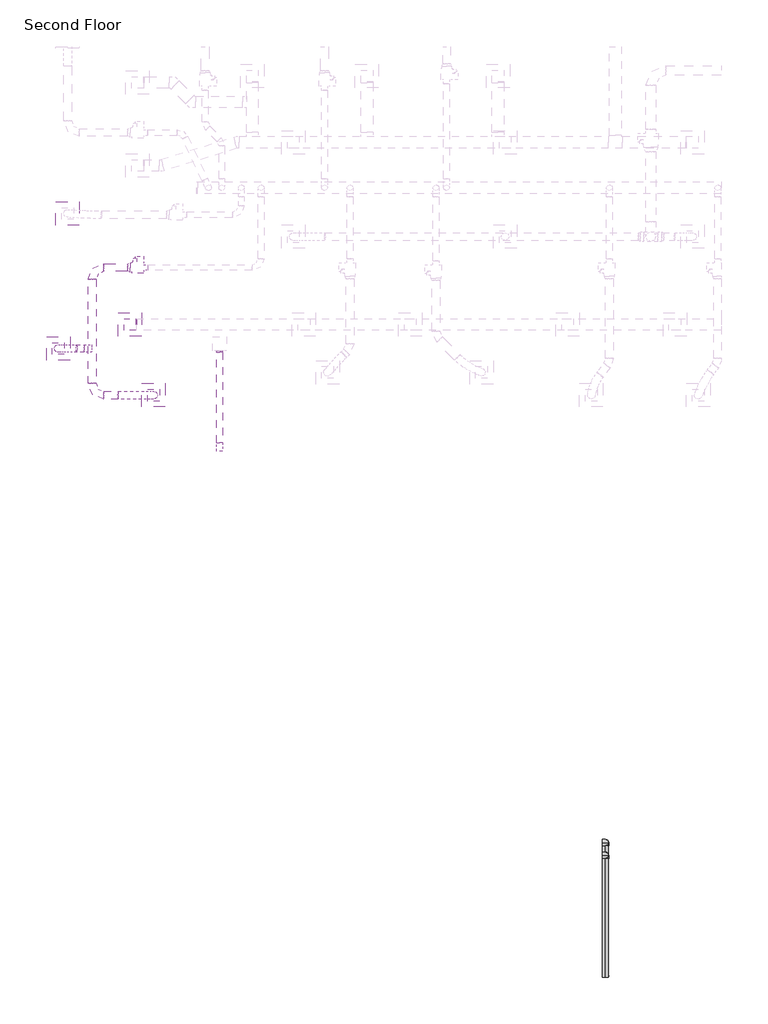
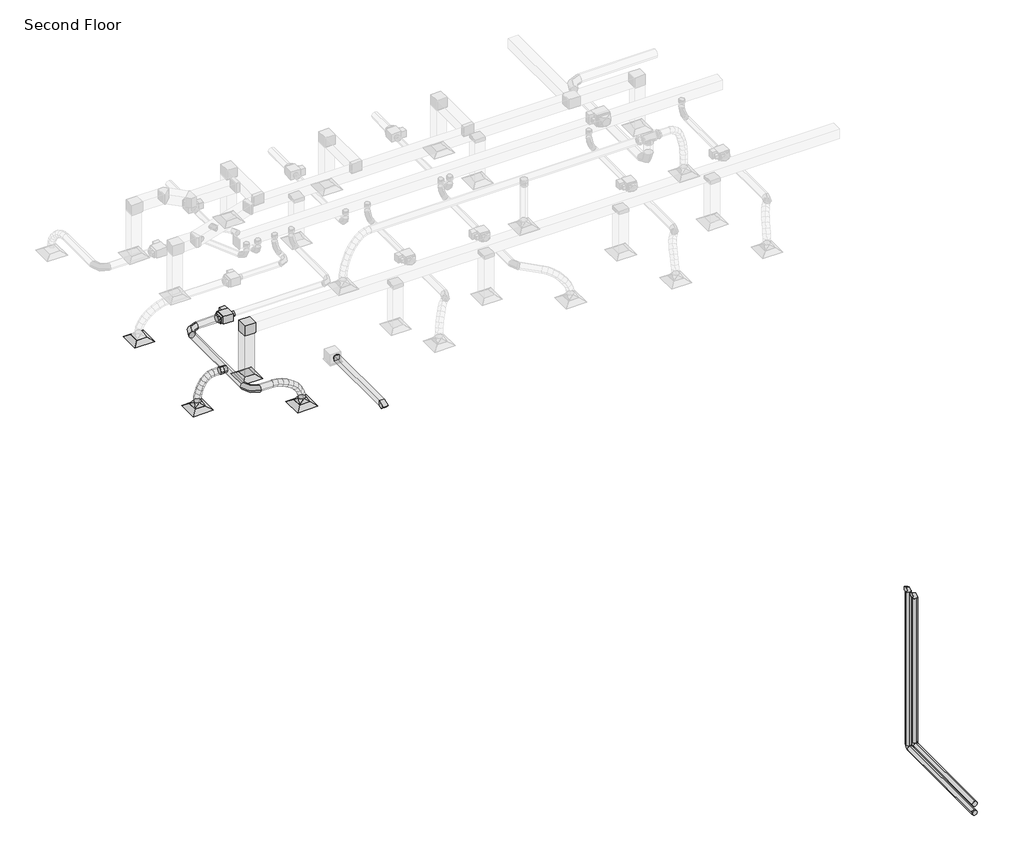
# One storey, part 1 of 44: 9 duct fittings, 8 duct segments, 5 pipe fittings, 4 air terminals, 4 pipe segments, 1 proxy.
"""IFC4 building model written with IfcOpenShell, lengths in millimetres."""

from ifc_helpers import new_model, si_unit, point, frame, frame_2d, origin, place, context, project, spatial, polyline, circle_curve, ellipse_curve, trimmed, segment, composite_curve, outline, extrude, transform, mapped, element, save
from ifc_brep_helpers import plane_surface, cylinder_surface, advanced_brep
from components import m_exhaust_grill_er_600_x_600_face_300_x_300_connection_ff221211, m_vav_unit_single_duct_150_mm_ffdab17b, m_rectangular_elbow_mitered_standard_8eee5933, m_rectangular_elbow_radius_1_5_w_13fbe4c8, m_rectangular_to_round_transition_angle_45_degree_2860c485, m_rectangular_to_round_transition_angle_45_degree_60daae35, m_rectangular_to_round_transition_angle_45_degree_1b7ae117, m_round_elbow_1_5_d_b7bc3624, m_round_takeoff_standard_c62ca294, m_elbow_generic_standard_1652de39, m_transition_generic_standard_cf1901ec

model = new_model("IFC4")

# Units and contexts
model_context = context("Model", 3, world=origin())
ifc_project = project(units=[si_unit("LENGTHUNIT", "METRE", prefix="MILLI")], contexts=[model_context])

# Site, building, storey
site = spatial("IfcSite", under=ifc_project)
building = spatial("IfcBuilding", under=site)
storey = spatial("IfcBuildingStorey", under=building, Name="Second Floor", Elevation=4570.0)

# Air terminals
placement = place(None, origin())
m_exhaust_grill_er_600_x_600_face_300_x_300_connection_shape = m_exhaust_grill_er_600_x_600_face_300_x_300_connection_ff221211(model_context)
element("IfcAirTerminal", 1, ObjectType="M_Return Register : RR-600 x 600 Face 300 x 300 Connection", at=placement, inside=storey, context=model_context, shape_type="MappedRepresentation", body=[
    mapped(m_exhaust_grill_er_600_x_600_face_300_x_300_connection_shape, transform((-44391.7415292, 12657.116341, 7250.0), x_axis=(1.0, 0.0, 0.0), y_axis=(0.0, 1.0, 0.0), z_axis=(0.0, 0.0, 1.0))),
])
element("IfcAirTerminal", 2, ObjectType="M_Supply Diffuser : SD-600 x 600 Face 300 x 300 Connection", at=placement, inside=storey, context=model_context, shape_type="MappedRepresentation", body=[
    mapped(m_exhaust_grill_er_600_x_600_face_300_x_300_connection_shape, transform((-46218.6635216, 12048.3608555, 7250.0), x_axis=(1.0, 0.0, 0.0), y_axis=(0.0, 1.0, 0.0), z_axis=(0.0, 0.0, 1.0))),
])
element("IfcAirTerminal", 3, ObjectType="M_Supply Diffuser : SD-600 x 600 Face 300 x 300 Connection", at=placement, inside=storey, context=model_context, shape_type="MappedRepresentation", body=[
    mapped(m_exhaust_grill_er_600_x_600_face_300_x_300_connection_shape, transform((-43787.784533, 10855.5728123, 7250.0), x_axis=(1.0, 0.0, 0.0), y_axis=(0.0, 1.0, 0.0), z_axis=(0.0, 0.0, 1.0))),
])
element("IfcAirTerminal", 4, ObjectType="M_Supply Diffuser : SD-600 x 600 Face 300 x 300 Connection", at=placement, inside=storey, context=model_context, shape_type="MappedRepresentation", body=[
    mapped(m_exhaust_grill_er_600_x_600_face_300_x_300_connection_shape, transform((-45979.7910179, 15490.6820216, 7250.0), x_axis=(1.0, 0.0, 0.0), y_axis=(0.0, 1.0, 0.0), z_axis=(0.0, 0.0, 1.0))),
])

# Proxy
m_vav_unit_single_duct_150_mm_shape = m_vav_unit_single_duct_150_mm_ffdab17b(model_context)
element("IfcBuildingElementProxy", 5, Name="M_VAV Unit - Single Duct : 150 mm", ObjectType="M_VAV Unit - Single Duct : 150 mm", at=placement, inside=storey, context=model_context, shape_type="MappedRepresentation", body=[
    mapped(m_vav_unit_single_duct_150_mm_shape, transform((-44044.3292263, 14112.0779081, 8070.0), x_axis=(-1.0000000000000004, 0.0, 0.0), y_axis=(0.0, -1.0000000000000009, 0.0), z_axis=(0.0, 0.0, 1.0000000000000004))),
])

# Duct fittings
m_rectangular_elbow_mitered_standard_shape = m_rectangular_elbow_mitered_standard_8eee5933(model_context)
element("IfcDuctFitting", 6, ObjectType="M_Rectangular Elbow - Mitered : Standard", at=placement, inside=storey, context=model_context, shape_type="MappedRepresentation", body=[
    mapped(m_rectangular_elbow_mitered_standard_shape, transform((-44391.7415292, 12657.116341, 8820.0), x_axis=(0.0, 0.0, 1.0), y_axis=(1.0, 0.0, 0.0), z_axis=(0.0, 1.0, 0.0))),
])
m_rectangular_elbow_radius_1_5_w_shape = m_rectangular_elbow_radius_1_5_w_13fbe4c8(model_context)
element("IfcDuctFitting", 7, ObjectType="M_Rectangular Elbow - Radius : 1.5 W", at=placement, inside=storey, context=model_context, shape_type="MappedRepresentation", body=[
    mapped(m_rectangular_elbow_radius_1_5_w_shape, transform((-42106.048752, 9550.6909414, 7449.6), x_axis=(0.0, -1.0, 0.0), y_axis=(0.0, 0.0, -1.0), z_axis=(1.0, 0.0, 0.0))),
])
m_rectangular_to_round_transition_angle_45_degree_shape = m_rectangular_to_round_transition_angle_45_degree_2860c485(model_context)
element("IfcDuctFitting", 8, ObjectType="M_Rectangular to Round Transition - Angle : 45 Degree", at=placement, inside=storey, context=model_context, shape_type="MappedRepresentation", body=[
    mapped(m_rectangular_to_round_transition_angle_45_degree_shape, transform((-42106.048752, 11957.1249243, 7449.6), x_axis=(0.0, 1.0, 0.0), y_axis=(-1.0, 0.0, 0.0), z_axis=(0.0, 0.0, 1.0))),
])
m_rectangular_to_round_transition_angle_45_degree_2_shape = m_rectangular_to_round_transition_angle_45_degree_60daae35(model_context)
element("IfcDuctFitting", 9, ObjectType="M_Rectangular to Round Transition - Angle : 45 Degree", at=placement, inside=storey, context=model_context, shape_type="MappedRepresentation", body=[
    mapped(m_rectangular_to_round_transition_angle_45_degree_2_shape, transform((-46218.6635216, 12048.3608555, 7351.6), x_axis=(0.0, 0.0, 1.0), y_axis=(1.0, 0.0, 0.0), z_axis=(0.0, 1.0, 0.0))),
])
element("IfcDuctFitting", 10, ObjectType="M_Rectangular to Round Transition - Angle : 45 Degree", at=placement, inside=storey, context=model_context, shape_type="MappedRepresentation", body=[
    mapped(m_rectangular_to_round_transition_angle_45_degree_2_shape, transform((-43787.784533, 10855.5728123, 7351.6), x_axis=(0.0, 0.0, 1.0), y_axis=(1.0, 0.0, 0.0), z_axis=(0.0, 1.0, 0.0))),
])
m_rectangular_to_round_transition_angle_45_degree_3_shape = m_rectangular_to_round_transition_angle_45_degree_1b7ae117(model_context)
element("IfcDuctFitting", 11, ObjectType="M_Rectangular to Round Transition - Angle : 45 Degree", at=placement, inside=storey, context=model_context, shape_type="MappedRepresentation", body=[
    mapped(m_rectangular_to_round_transition_angle_45_degree_3_shape, transform((-44387.1292263, 14112.0779081, 8189.05), x_axis=(-1.0, 0.0, 0.0), y_axis=(0.0, -1.0, 0.0), z_axis=(0.0, 0.0, 1.0))),
])
m_round_elbow_1_5_d_shape = m_round_elbow_1_5_d_b7bc3624(model_context)
element("IfcDuctFitting", 12, ObjectType="M_Round Elbow : 1.5 D", at=placement, inside=storey, context=model_context, shape_type="MappedRepresentation", body=[
    mapped(m_round_elbow_1_5_d_shape, transform((-45357.3675061, 14112.0779081, 8189.1), x_axis=(-1.0, 0.0, 0.0), y_axis=(0.0, -1.0, 0.0), z_axis=(0.0, 0.0, 1.0))),
])
element("IfcDuctFitting", 13, ObjectType="M_Round Elbow : 1.5 D", at=placement, inside=storey, context=model_context, shape_type="MappedRepresentation", body=[
    mapped(m_round_elbow_1_5_d_shape, transform((-45357.3675061, 10855.5728123, 8189.1), x_axis=(0.0, -1.0, 0.0), y_axis=(1.0, 0.0, 0.0), z_axis=(0.0, 0.0, 1.0))),
])
m_round_takeoff_standard_shape = m_round_takeoff_standard_c62ca294(model_context)
element("IfcDuctFitting", 14, ObjectType="M_Round Takeoff : Standard", at=placement, inside=storey, context=model_context, shape_type="MappedRepresentation", body=[
    mapped(m_round_takeoff_standard_shape, transform((-45457.3675061, 12048.3608555, 8189.1), x_axis=(-1.0, 0.0, 0.0), y_axis=(0.0, 1.0, 0.0), z_axis=(0.0, 0.0, -1.0))),
])

# Duct segments
element("IfcDuctSegment", 15, ObjectType="Flex - Round", at=placement, inside=storey, context=model_context, shape_type="AdvancedBrep", body=[
    advanced_brep(
    [(-45757.3675061, 11948.3608555, 8189.1), (-45738.8137108, 12048.3608555, 8090.8362901), (-45757.3675061, 12148.3608555, 8189.1), (-45775.9213014, 12048.3608555, 8287.3637099), (-45858.7658928, 11948.3608555, 8169.9543265), (-45823.2386846, 12048.3608555, 8074.8954745), (-45858.7658928, 12148.3608555, 8169.9543265), (-45894.2931009, 12048.3608555, 8265.0131784), (-46218.6635216, 11948.3608555, 7472.3106781), (-46318.4004499, 12048.3608555, 7479.559481), (-46218.6635216, 12148.3608555, 7472.3106781), (-46118.9265934, 12048.3608555, 7465.0618752), (-45949.3133614, 11948.3608555, 8117.0577861), (-45887.4617849, 12048.3608555, 8037.3772549), (-45949.3133614, 12148.3608555, 8117.0577861), (-46011.164938, 12048.3608555, 8196.7383173), (-46028.1873161, 11948.3608555, 8037.2210992), (-45950.2395917, 12048.3608555, 7973.8331848), (-46028.1873161, 12148.3608555, 8037.2210992), (-46106.1350406, 12048.3608555, 8100.6090136), (-46094.5651609, 11948.3608555, 7937.2549861), (-46007.1533032, 12048.3608555, 7888.1202101), (-46094.5651609, 12148.3608555, 7937.2549861), (-46181.9770185, 12048.3608555, 7986.3897621), (-46147.6242998, 11948.3608555, 7823.9701671), (-46054.4340845, 12048.3608555, 7787.172572), (-46147.6242998, 12148.3608555, 7823.9701671), (-46240.814515, 12048.3608555, 7860.7677622), (-46186.5421368, 11948.3608555, 7704.1773626), (-46089.6369231, 12048.3608555, 7678.8148862), (-46186.5421368, 12148.3608555, 7704.1773626), (-46283.4473506, 12048.3608555, 7729.5398389), (-46210.4960761, 11948.3608555, 7584.6872928), (-46111.2138582, 12048.3608555, 7571.1820892), (-46210.4960761, 12148.3608555, 7584.6872928), (-46309.778294, 12048.3608555, 7598.1924964)],
    [
        (0, 1, circle_curve(frame((-45757.3675061, 12048.3608555, 8189.1), z_axis=(0.9826370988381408, 0.0, 0.18553795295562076), x_axis=(0.0, -1.0, 0.0)), 100.0)),
        (1, 2, circle_curve(frame((-45757.3675061, 12048.3608555, 8189.1), z_axis=(0.9826370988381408, 0.0, 0.18553795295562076), x_axis=(0.0, -1.0, 0.0)), 100.0)),
        (2, 3, circle_curve(frame((-45757.3675061, 12048.3608555, 8189.1), z_axis=(0.9826370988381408, 0.0, 0.18553795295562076), x_axis=(0.0, -1.0, 0.0)), 100.0)),
        (3, 0, circle_curve(frame((-45757.3675061, 12048.3608555, 8189.1), z_axis=(0.9826370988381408, 0.0, 0.18553795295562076), x_axis=(0.0, -1.0, 0.0)), 100.0)),
        (0, 4),
        (4, 5, ellipse_curve(frame((-45858.7658928, 12048.3608555, 8169.9543265), z_axis=(0.9367169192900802, 0.0, 0.350087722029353), x_axis=(0.3500877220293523, 0.0, -0.9367169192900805)), 101.4808743, 100.0)),
        (5, 1),
        (5, 6, ellipse_curve(frame((-45858.7658928, 12048.3608555, 8169.9543265), z_axis=(0.9367169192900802, 0.0, 0.350087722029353), x_axis=(0.3500877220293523, 0.0, -0.9367169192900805)), 101.4808743, 100.0)),
        (6, 2),
        (6, 7, ellipse_curve(frame((-45858.7658928, 12048.3608555, 8169.9543265), z_axis=(0.9367169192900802, 0.0, 0.350087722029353), x_axis=(0.3500877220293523, 0.0, -0.9367169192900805)), 101.4808743, 100.0)),
        (7, 3),
        (7, 4, ellipse_curve(frame((-45858.7658928, 12048.3608555, 8169.9543265), z_axis=(0.9367169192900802, 0.0, 0.350087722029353), x_axis=(0.3500877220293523, 0.0, -0.9367169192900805)), 101.4808743, 100.0)),
        (8, 9, circle_curve(frame((-46218.6635216, 12048.3608555, 7472.3106781), z_axis=(-0.07248802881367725, 0.0, -0.9973692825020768), x_axis=(0.0, -1.0, 0.0)), 100.0)),
        (9, 10, circle_curve(frame((-46218.6635216, 12048.3608555, 7472.3106781), z_axis=(-0.07248802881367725, 0.0, -0.9973692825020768), x_axis=(0.0, -1.0, 0.0)), 100.0)),
        (10, 11, circle_curve(frame((-46218.6635216, 12048.3608555, 7472.3106781), z_axis=(-0.07248802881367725, 0.0, -0.9973692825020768), x_axis=(0.0, -1.0, 0.0)), 100.0)),
        (11, 8, circle_curve(frame((-46218.6635216, 12048.3608555, 7472.3106781), z_axis=(-0.07248802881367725, 0.0, -0.9973692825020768), x_axis=(0.0, -1.0, 0.0)), 100.0)),
        (4, 12),
        (12, 13, ellipse_curve(frame((-45949.3133614, 12048.3608555, 8117.0577861), z_axis=(0.789938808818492, 0.0, 0.6131856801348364), x_axis=(0.6131856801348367, 0.0, -0.7899388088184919)), 100.869245, 100.0)),
        (13, 5),
        (13, 14, ellipse_curve(frame((-45949.3133614, 12048.3608555, 8117.0577861), z_axis=(0.789938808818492, 0.0, 0.6131856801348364), x_axis=(0.6131856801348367, 0.0, -0.7899388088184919)), 100.869245, 100.0)),
        (14, 6),
        (14, 15, ellipse_curve(frame((-45949.3133614, 12048.3608555, 8117.0577861), z_axis=(0.789938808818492, 0.0, 0.6131856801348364), x_axis=(0.6131856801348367, 0.0, -0.7899388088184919)), 100.869245, 100.0)),
        (15, 7),
        (15, 12, ellipse_curve(frame((-45949.3133614, 12048.3608555, 8117.0577861), z_axis=(0.789938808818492, 0.0, 0.6131856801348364), x_axis=(0.6131856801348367, 0.0, -0.7899388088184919)), 100.869245, 100.0)),
        (12, 16),
        (16, 17, ellipse_curve(frame((-46028.1873161, 12048.3608555, 8037.2210992), z_axis=(0.6309246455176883, 0.0, 0.7758441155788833), x_axis=(0.7758441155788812, 0.0, -0.6309246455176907)), 100.4682808, 100.0)),
        (17, 13),
        (17, 18, ellipse_curve(frame((-46028.1873161, 12048.3608555, 8037.2210992), z_axis=(0.6309246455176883, 0.0, 0.7758441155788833), x_axis=(0.7758441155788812, 0.0, -0.6309246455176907)), 100.4682808, 100.0)),
        (18, 14),
        (18, 19, ellipse_curve(frame((-46028.1873161, 12048.3608555, 8037.2210992), z_axis=(0.6309246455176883, 0.0, 0.7758441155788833), x_axis=(0.7758441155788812, 0.0, -0.6309246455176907)), 100.4682808, 100.0)),
        (19, 15),
        (19, 16, ellipse_curve(frame((-46028.1873161, 12048.3608555, 8037.2210992), z_axis=(0.6309246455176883, 0.0, 0.7758441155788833), x_axis=(0.7758441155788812, 0.0, -0.6309246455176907)), 100.4682808, 100.0)),
        (16, 20),
        (20, 21, ellipse_curve(frame((-46094.5651609, 12048.3608555, 7937.2549861), z_axis=(0.4900006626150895, 0.0, 0.871722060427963), x_axis=(0.8717220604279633, 0.0, -0.49000066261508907)), 100.2749174, 100.0)),
        (21, 17),
        (21, 22, ellipse_curve(frame((-46094.5651609, 12048.3608555, 7937.2549861), z_axis=(0.4900006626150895, 0.0, 0.871722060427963), x_axis=(0.8717220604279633, 0.0, -0.49000066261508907)), 100.2749174, 100.0)),
        (22, 18),
        (22, 23, ellipse_curve(frame((-46094.5651609, 12048.3608555, 7937.2549861), z_axis=(0.4900006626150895, 0.0, 0.871722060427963), x_axis=(0.8717220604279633, 0.0, -0.49000066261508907)), 100.2749174, 100.0)),
        (23, 19),
        (23, 20, ellipse_curve(frame((-46094.5651609, 12048.3608555, 7937.2549861), z_axis=(0.4900006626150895, 0.0, 0.871722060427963), x_axis=(0.8717220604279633, 0.0, -0.49000066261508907)), 100.2749174, 100.0)),
        (20, 24),
        (24, 25, ellipse_curve(frame((-46147.6242998, 12048.3608555, 7823.9701671), z_axis=(0.36727001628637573, 0.0, 0.9301143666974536), x_axis=(0.9301143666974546, 0.0, -0.36727001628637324)), 100.1922114, 100.0)),
        (25, 21),
        (25, 26, ellipse_curve(frame((-46147.6242998, 12048.3608555, 7823.9701671), z_axis=(0.36727001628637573, 0.0, 0.9301143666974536), x_axis=(0.9301143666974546, 0.0, -0.36727001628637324)), 100.1922114, 100.0)),
        (26, 22),
        (26, 27, ellipse_curve(frame((-46147.6242998, 12048.3608555, 7823.9701671), z_axis=(0.36727001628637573, 0.0, 0.9301143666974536), x_axis=(0.9301143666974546, 0.0, -0.36727001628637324)), 100.1922114, 100.0)),
        (27, 23),
        (27, 24, ellipse_curve(frame((-46147.6242998, 12048.3608555, 7823.9701671), z_axis=(0.36727001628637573, 0.0, 0.9301143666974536), x_axis=(0.9301143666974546, 0.0, -0.36727001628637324)), 100.1922114, 100.0)),
        (24, 28),
        (28, 29, ellipse_curve(frame((-46186.5421368, 12048.3608555, 7704.1773626), z_axis=(0.25319626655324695, 0.0, 0.9674149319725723), x_axis=(0.967414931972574, 0.0, -0.2531962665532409)), 100.1692351, 100.0)),
        (29, 25),
        (29, 30, ellipse_curve(frame((-46186.5421368, 12048.3608555, 7704.1773626), z_axis=(0.25319626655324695, 0.0, 0.9674149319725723), x_axis=(0.967414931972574, 0.0, -0.2531962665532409)), 100.1692351, 100.0)),
        (30, 26),
        (30, 31, ellipse_curve(frame((-46186.5421368, 12048.3608555, 7704.1773626), z_axis=(0.25319626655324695, 0.0, 0.9674149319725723), x_axis=(0.967414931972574, 0.0, -0.2531962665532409)), 100.1692351, 100.0)),
        (31, 27),
        (31, 28, ellipse_curve(frame((-46186.5421368, 12048.3608555, 7704.1773626), z_axis=(0.25319626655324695, 0.0, 0.9674149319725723), x_axis=(0.967414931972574, 0.0, -0.2531962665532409)), 100.1692351, 100.0)),
        (28, 32),
        (32, 33, ellipse_curve(frame((-46210.4960761, 12048.3608555, 7584.6872928), z_axis=(0.13478710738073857, 0.0, 0.990874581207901), x_axis=(0.9908745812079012, 0.0, -0.13478710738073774)), 100.1965534, 100.0)),
        (33, 29),
        (33, 34, ellipse_curve(frame((-46210.4960761, 12048.3608555, 7584.6872928), z_axis=(0.13478710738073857, 0.0, 0.990874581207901), x_axis=(0.9908745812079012, 0.0, -0.13478710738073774)), 100.1965534, 100.0)),
        (34, 30),
        (34, 35, ellipse_curve(frame((-46210.4960761, 12048.3608555, 7584.6872928), z_axis=(0.13478710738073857, 0.0, 0.990874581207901), x_axis=(0.9908745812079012, 0.0, -0.13478710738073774)), 100.1965534, 100.0)),
        (35, 31),
        (35, 32, ellipse_curve(frame((-46210.4960761, 12048.3608555, 7584.6872928), z_axis=(0.13478710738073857, 0.0, 0.990874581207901), x_axis=(0.9908745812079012, 0.0, -0.13478710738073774)), 100.1965534, 100.0)),
        (32, 8),
        (11, 33),
        (10, 34),
        (9, 35),
    ],
    [
        plane_surface(frame((-45757.3675061, 12148.3608555, 8189.1), z_axis=(0.9826370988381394, 0.0, 0.18553795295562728), x_axis=(0.18553795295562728, 0.0, -0.9826370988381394))),
        cylinder_surface(frame((-45757.3675061, 12048.3608555, 8189.1), z_axis=(0.9826370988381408, 0.0, 0.18553795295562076), x_axis=(0.0, -1.0, 0.0)), 100.0),
        plane_surface(frame((-46218.6635216, 12148.3608555, 7472.3106781), z_axis=(-0.07248802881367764, 0.0, -0.9973692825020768), x_axis=(0.9973692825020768, 0.0, -0.07248802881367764))),
        cylinder_surface(frame((-45858.7658928, 12048.3608555, 8169.9543265), z_axis=(0.8634583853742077, 0.0, 0.5044200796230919), x_axis=(0.0, -1.0, 0.0)), 100.0),
        cylinder_surface(frame((-45949.3133614, 12048.3608555, 8117.0577861), z_axis=(0.7028045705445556, 0.0, 0.7113829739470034), x_axis=(0.0, -1.0, 0.0)), 100.0),
        cylinder_surface(frame((-46028.1873161, 12048.3608555, 8037.2210992), z_axis=(0.5531632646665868, 0.0, 0.8330728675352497), x_axis=(0.0, -1.0, 0.0)), 100.0),
        cylinder_surface(frame((-46094.5651609, 12048.3608555, 7937.2549861), z_axis=(0.4241512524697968, 0.0, 0.9055913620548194), x_axis=(0.0, -1.0, 0.0)), 100.0),
        cylinder_surface(frame((-46147.6242998, 12048.3608555, 7823.9701671), z_axis=(0.3089796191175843, 0.0, 0.9510686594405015), x_axis=(0.0, -1.0, 0.0)), 100.0),
        cylinder_surface(frame((-46186.5421368, 12048.3608555, 7704.1773626), z_axis=(0.19655736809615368, 0.0, 0.9804923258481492), x_axis=(0.0, -1.0, 0.0)), 100.0),
        cylinder_surface(frame((-46210.4960761, 12048.3608555, 7584.6872928), z_axis=(0.07248802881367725, 0.0, 0.9973692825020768), x_axis=(0.0, -1.0, 0.0)), 100.0),
    ],
    [
        (0, [[1, 2, 3, 4]]),
        (1, [[-1, 5, 6, 7]]),
        (1, [[-2, -7, 8, 9]]),
        (1, [[-3, -9, 10, 11]]),
        (1, [[-4, -11, 12, -5]]),
        (2, [[13, 14, 15, 16]]),
        (3, [[-6, 17, 18, 19]]),
        (3, [[-8, -19, 20, 21]]),
        (3, [[-10, -21, 22, 23]]),
        (3, [[-12, -23, 24, -17]]),
        (4, [[-18, 25, 26, 27]]),
        (4, [[-20, -27, 28, 29]]),
        (4, [[-22, -29, 30, 31]]),
        (4, [[-24, -31, 32, -25]]),
        (5, [[-26, 33, 34, 35]]),
        (5, [[-28, -35, 36, 37]]),
        (5, [[-30, -37, 38, 39]]),
        (5, [[-32, -39, 40, -33]]),
        (6, [[-34, 41, 42, 43]]),
        (6, [[-36, -43, 44, 45]]),
        (6, [[-38, -45, 46, 47]]),
        (6, [[-40, -47, 48, -41]]),
        (7, [[-42, 49, 50, 51]]),
        (7, [[-44, -51, 52, 53]]),
        (7, [[-46, -53, 54, 55]]),
        (7, [[-48, -55, 56, -49]]),
        (8, [[-50, 57, 58, 59]]),
        (8, [[-52, -59, 60, 61]]),
        (8, [[-54, -61, 62, 63]]),
        (8, [[-56, -63, 64, -57]]),
        (9, [[-58, 65, -16, 66]]),
        (9, [[-60, -66, -15, 67]]),
        (9, [[-62, -67, -14, 68]]),
        (9, [[-64, -68, -13, -65]]),
    ],
),
])
element("IfcDuctSegment", 16, ObjectType="Flex - Round", at=placement, inside=storey, context=model_context, shape_type="AdvancedBrep", body=[
    advanced_brep(
    [(-44687.1292267, 10955.5728123, 8189.1), (-44697.2157573, 10855.5728123, 8089.609991), (-44687.1292267, 10755.5728123, 8189.1), (-44677.042696, 10855.5728123, 8288.590009), (-44538.4224297, 10955.5728123, 8174.0237559), (-44557.091527, 10855.5728123, 8075.4038676), (-44538.4224297, 10755.5728123, 8174.0237559), (-44519.7533324, 10855.5728123, 8272.6436442), (-43787.784533, 10955.5728123, 7472.3106781), (-43689.0826168, 10855.5728123, 7488.3709316), (-43787.784533, 10755.5728123, 7472.3106781), (-43886.4864491, 10855.5728123, 7456.2504246), (-44384.8812767, 10955.5728123, 8131.0101156), (-44419.0199211, 10855.5728123, 8036.7239289), (-44384.8812767, 10755.5728123, 8131.0101156), (-44350.7426324, 10855.5728123, 8225.2963024), (-44234.1070473, 10955.5728123, 8063.3817171), (-44281.5637058, 10855.5728123, 7975.0692035), (-44234.1070473, 10755.5728123, 8063.3817171), (-44186.6503887, 10855.5728123, 8151.6942306), (-44093.7010207, 10955.5728123, 7974.4611982), (-44153.6870524, 10855.5728123, 7894.08366), (-44093.7010207, 10755.5728123, 7974.4611982), (-44033.7149889, 10855.5728123, 8054.8387364), (-43971.2644765, 10955.5728123, 7867.5711969), (-44043.8353413, 10855.5728123, 7798.1805159), (-43971.2644765, 10755.5728123, 7867.5711969), (-43898.6936117, 10855.5728123, 7936.961878), (-43874.3986942, 10955.5728123, 7746.0343512), (-43959.6688733, 10855.5728123, 7692.5774144), (-43874.3986942, 10755.5728123, 7746.0343512), (-43789.1285151, 10855.5728123, 7799.4912879), (-43810.7049532, 10955.5728123, 7613.1732989), (-43907.0966656, 10855.5728123, 7582.9151663), (-43810.7049532, 10755.5728123, 7613.1732989), (-43714.3132408, 10855.5728123, 7643.4314316)],
    [
        (0, 1, circle_curve(frame((-44687.1292267, 10855.5728123, 8189.1), z_axis=(-0.9949000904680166, 0.0, 0.1008653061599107), x_axis=(0.0, 1.0, 0.0)), 100.0)),
        (1, 2, circle_curve(frame((-44687.1292267, 10855.5728123, 8189.1), z_axis=(-0.9949000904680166, 0.0, 0.1008653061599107), x_axis=(0.0, 1.0, 0.0)), 100.0)),
        (2, 3, circle_curve(frame((-44687.1292267, 10855.5728123, 8189.1), z_axis=(-0.9949000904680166, 0.0, 0.1008653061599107), x_axis=(0.0, 1.0, 0.0)), 100.0)),
        (3, 0, circle_curve(frame((-44687.1292267, 10855.5728123, 8189.1), z_axis=(-0.9949000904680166, 0.0, 0.1008653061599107), x_axis=(0.0, 1.0, 0.0)), 100.0)),
        (0, 4),
        (4, 5, ellipse_curve(frame((-44538.4224297, 10855.5728123, 8174.0237559), z_axis=(-0.9825497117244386, 0.0, 0.18600017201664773), x_axis=(-0.18600017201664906, 0.0, -0.9825497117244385)), 100.3713981, 100.0)),
        (5, 1),
        (5, 6, ellipse_curve(frame((-44538.4224297, 10855.5728123, 8174.0237559), z_axis=(-0.9825497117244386, 0.0, 0.18600017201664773), x_axis=(-0.18600017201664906, 0.0, -0.9825497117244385)), 100.3713981, 100.0)),
        (6, 2),
        (6, 7, ellipse_curve(frame((-44538.4224297, 10855.5728123, 8174.0237559), z_axis=(-0.9825497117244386, 0.0, 0.18600017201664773), x_axis=(-0.18600017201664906, 0.0, -0.9825497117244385)), 100.3713981, 100.0)),
        (7, 3),
        (7, 4, ellipse_curve(frame((-44538.4224297, 10855.5728123, 8174.0237559), z_axis=(-0.9825497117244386, 0.0, 0.18600017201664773), x_axis=(-0.18600017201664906, 0.0, -0.9825497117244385)), 100.3713981, 100.0)),
        (8, 9, circle_curve(frame((-43787.784533, 10855.5728123, 7472.3106781), z_axis=(0.16060253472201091, 0.0, -0.9870191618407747), x_axis=(0.0, 1.0, 0.0)), 100.0)),
        (9, 10, circle_curve(frame((-43787.784533, 10855.5728123, 7472.3106781), z_axis=(0.16060253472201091, 0.0, -0.9870191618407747), x_axis=(0.0, 1.0, 0.0)), 100.0)),
        (10, 11, circle_curve(frame((-43787.784533, 10855.5728123, 7472.3106781), z_axis=(0.16060253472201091, 0.0, -0.9870191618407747), x_axis=(0.0, 1.0, 0.0)), 100.0)),
        (11, 8, circle_curve(frame((-43787.784533, 10855.5728123, 7472.3106781), z_axis=(0.16060253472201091, 0.0, -0.9870191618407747), x_axis=(0.0, 1.0, 0.0)), 100.0)),
        (4, 12),
        (12, 13, ellipse_curve(frame((-44384.8812767, 10855.5728123, 8131.0101156), z_axis=(-0.9402641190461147, 0.0, 0.3404458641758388), x_axis=(-0.3404458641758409, 0.0, -0.9402641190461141)), 100.2762786, 100.0)),
        (13, 5),
        (13, 14, ellipse_curve(frame((-44384.8812767, 10855.5728123, 8131.0101156), z_axis=(-0.9402641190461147, 0.0, 0.3404458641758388), x_axis=(-0.3404458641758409, 0.0, -0.9402641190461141)), 100.2762786, 100.0)),
        (14, 6),
        (14, 15, ellipse_curve(frame((-44384.8812767, 10855.5728123, 8131.0101156), z_axis=(-0.9402641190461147, 0.0, 0.3404458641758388), x_axis=(-0.3404458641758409, 0.0, -0.9402641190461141)), 100.2762786, 100.0)),
        (15, 7),
        (15, 12, ellipse_curve(frame((-44384.8812767, 10855.5728123, 8131.0101156), z_axis=(-0.9402641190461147, 0.0, 0.3404458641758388), x_axis=(-0.3404458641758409, 0.0, -0.9402641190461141)), 100.2762786, 100.0)),
        (12, 16),
        (16, 17, ellipse_curve(frame((-44234.1070473, 10855.5728123, 8063.3817171), z_axis=(-0.88087146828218, 0.0, 0.4733555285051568), x_axis=(-0.4733555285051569, 0.0, -0.8808714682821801)), 100.2558452, 100.0)),
        (17, 13),
        (17, 18, ellipse_curve(frame((-44234.1070473, 10855.5728123, 8063.3817171), z_axis=(-0.88087146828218, 0.0, 0.4733555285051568), x_axis=(-0.4733555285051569, 0.0, -0.8808714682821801)), 100.2558452, 100.0)),
        (18, 14),
        (18, 19, ellipse_curve(frame((-44234.1070473, 10855.5728123, 8063.3817171), z_axis=(-0.88087146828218, 0.0, 0.4733555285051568), x_axis=(-0.4733555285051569, 0.0, -0.8808714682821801)), 100.2558452, 100.0)),
        (19, 15),
        (19, 16, ellipse_curve(frame((-44234.1070473, 10855.5728123, 8063.3817171), z_axis=(-0.88087146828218, 0.0, 0.4733555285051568), x_axis=(-0.4733555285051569, 0.0, -0.8808714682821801)), 100.2558452, 100.0)),
        (16, 20),
        (20, 21, ellipse_curve(frame((-44093.7010207, 10855.5728123, 7974.4611982), z_axis=(-0.8014197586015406, 0.0, 0.5981023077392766), x_axis=(-0.5981023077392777, 0.0, -0.8014197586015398)), 100.2939313, 100.0)),
        (21, 17),
        (21, 22, ellipse_curve(frame((-44093.7010207, 10855.5728123, 7974.4611982), z_axis=(-0.8014197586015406, 0.0, 0.5981023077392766), x_axis=(-0.5981023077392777, 0.0, -0.8014197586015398)), 100.2939313, 100.0)),
        (22, 18),
        (22, 23, ellipse_curve(frame((-44093.7010207, 10855.5728123, 7974.4611982), z_axis=(-0.8014197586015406, 0.0, 0.5981023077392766), x_axis=(-0.5981023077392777, 0.0, -0.8014197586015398)), 100.2939313, 100.0)),
        (23, 19),
        (23, 20, ellipse_curve(frame((-44093.7010207, 10855.5728123, 7974.4611982), z_axis=(-0.8014197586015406, 0.0, 0.5981023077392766), x_axis=(-0.5981023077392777, 0.0, -0.8014197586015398)), 100.2939313, 100.0)),
        (20, 24),
        (24, 25, ellipse_curve(frame((-43971.2644765, 10855.5728123, 7867.5711969), z_axis=(-0.69109298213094, 0.0, 0.7227658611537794), x_axis=(-0.7227658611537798, 0.0, -0.6910929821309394)), 100.4071563, 100.0)),
        (25, 21),
        (25, 26, ellipse_curve(frame((-43971.2644765, 10855.5728123, 7867.5711969), z_axis=(-0.69109298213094, 0.0, 0.7227658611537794), x_axis=(-0.7227658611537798, 0.0, -0.6910929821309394)), 100.4071563, 100.0)),
        (26, 22),
        (26, 27, ellipse_curve(frame((-43971.2644765, 10855.5728123, 7867.5711969), z_axis=(-0.69109298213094, 0.0, 0.7227658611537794), x_axis=(-0.7227658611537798, 0.0, -0.6910929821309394)), 100.4071563, 100.0)),
        (27, 23),
        (27, 24, ellipse_curve(frame((-43971.2644765, 10855.5728123, 7867.5711969), z_axis=(-0.69109298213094, 0.0, 0.7227658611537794), x_axis=(-0.7227658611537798, 0.0, -0.6910929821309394)), 100.4071563, 100.0)),
        (24, 28),
        (28, 29, ellipse_curve(frame((-43874.3986942, 10855.5728123, 7746.0343512), z_axis=(-0.5311636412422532, 0.0, 0.8472692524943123), x_axis=(-0.847269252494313, 0.0, -0.5311636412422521)), 100.6411821, 100.0)),
        (29, 25),
        (29, 30, ellipse_curve(frame((-43874.3986942, 10855.5728123, 7746.0343512), z_axis=(-0.5311636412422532, 0.0, 0.8472692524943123), x_axis=(-0.847269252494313, 0.0, -0.5311636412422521)), 100.6411821, 100.0)),
        (30, 26),
        (30, 31, ellipse_curve(frame((-43874.3986942, 10855.5728123, 7746.0343512), z_axis=(-0.5311636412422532, 0.0, 0.8472692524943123), x_axis=(-0.847269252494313, 0.0, -0.5311636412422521)), 100.6411821, 100.0)),
        (31, 27),
        (31, 28, ellipse_curve(frame((-43874.3986942, 10855.5728123, 7746.0343512), z_axis=(-0.5311636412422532, 0.0, 0.8472692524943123), x_axis=(-0.847269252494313, 0.0, -0.5311636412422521)), 100.6411821, 100.0)),
        (28, 32),
        (32, 33, ellipse_curve(frame((-43810.7049532, 10855.5728123, 7613.1732989), z_axis=(-0.2994986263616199, 0.0, 0.9540967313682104), x_axis=(-0.95409673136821, 0.0, -0.2994986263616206)), 101.0292869, 100.0)),
        (33, 29),
        (33, 34, ellipse_curve(frame((-43810.7049532, 10855.5728123, 7613.1732989), z_axis=(-0.2994986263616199, 0.0, 0.9540967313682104), x_axis=(-0.95409673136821, 0.0, -0.2994986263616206)), 101.0292869, 100.0)),
        (34, 30),
        (34, 35, ellipse_curve(frame((-43810.7049532, 10855.5728123, 7613.1732989), z_axis=(-0.2994986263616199, 0.0, 0.9540967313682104), x_axis=(-0.95409673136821, 0.0, -0.2994986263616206)), 101.0292869, 100.0)),
        (35, 31),
        (35, 32, ellipse_curve(frame((-43810.7049532, 10855.5728123, 7613.1732989), z_axis=(-0.2994986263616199, 0.0, 0.9540967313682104), x_axis=(-0.95409673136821, 0.0, -0.2994986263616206)), 101.0292869, 100.0)),
        (32, 8),
        (11, 33),
        (10, 34),
        (9, 35),
    ],
    [
        plane_surface(frame((-44687.1292267, 10955.5728123, 8189.1), z_axis=(-0.9949000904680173, 0.0, 0.10086530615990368), x_axis=(0.10086530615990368, 0.0, 0.9949000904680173))),
        cylinder_surface(frame((-44687.1292267, 10855.5728123, 8189.1), z_axis=(-0.9949000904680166, 0.0, 0.1008653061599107), x_axis=(0.0, 1.0, 0.0)), 100.0),
        plane_surface(frame((-43787.784533, 10955.5728123, 7472.3106781), z_axis=(0.16060253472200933, 0.0, -0.987019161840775), x_axis=(0.987019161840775, 0.0, 0.16060253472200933))),
        cylinder_surface(frame((-44538.4224297, 10855.5728123, 8174.0237559), z_axis=(-0.9629279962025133, 0.0, 0.2697585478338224), x_axis=(0.0, 1.0, 0.0)), 100.0),
        cylinder_surface(frame((-44384.8812767, 10855.5728123, 8131.0101156), z_axis=(-0.9124190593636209, 0.0, 0.4092572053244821), x_axis=(0.0, 1.0, 0.0)), 100.0),
        cylinder_surface(frame((-44234.1070473, 10855.5728123, 8063.3817171), z_axis=(-0.8448280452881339, 0.0, 0.5350379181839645), x_axis=(0.0, 1.0, 0.0)), 100.0),
        cylinder_surface(frame((-44093.7010207, 10855.5728123, 7974.4611982), z_axis=(-0.7533140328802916, 0.0, 0.6576609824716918), x_axis=(0.0, 1.0, 0.0)), 100.0),
        cylinder_surface(frame((-43971.2644765, 10855.5728123, 7867.5711969), z_axis=(-0.6232670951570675, 0.0, 0.7820090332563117), x_axis=(0.0, 1.0, 0.0)), 100.0),
        cylinder_surface(frame((-43874.3986942, 10855.5728123, 7746.0343512), z_axis=(-0.43229213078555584, 0.0, 0.9017336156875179), x_axis=(0.0, 1.0, 0.0)), 100.0),
        cylinder_surface(frame((-43810.7049532, 10855.5728123, 7613.1732989), z_axis=(-0.16060253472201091, 0.0, 0.9870191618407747), x_axis=(0.0, 1.0, 0.0)), 100.0),
    ],
    [
        (0, [[1, 2, 3, 4]]),
        (1, [[-1, 5, 6, 7]]),
        (1, [[-2, -7, 8, 9]]),
        (1, [[-3, -9, 10, 11]]),
        (1, [[-4, -11, 12, -5]]),
        (2, [[13, 14, 15, 16]]),
        (3, [[-6, 17, 18, 19]]),
        (3, [[-8, -19, 20, 21]]),
        (3, [[-10, -21, 22, 23]]),
        (3, [[-12, -23, 24, -17]]),
        (4, [[-18, 25, 26, 27]]),
        (4, [[-20, -27, 28, 29]]),
        (4, [[-22, -29, 30, 31]]),
        (4, [[-24, -31, 32, -25]]),
        (5, [[-26, 33, 34, 35]]),
        (5, [[-28, -35, 36, 37]]),
        (5, [[-30, -37, 38, 39]]),
        (5, [[-32, -39, 40, -33]]),
        (6, [[-34, 41, 42, 43]]),
        (6, [[-36, -43, 44, 45]]),
        (6, [[-38, -45, 46, 47]]),
        (6, [[-40, -47, 48, -41]]),
        (7, [[-42, 49, 50, 51]]),
        (7, [[-44, -51, 52, 53]]),
        (7, [[-46, -53, 54, 55]]),
        (7, [[-48, -55, 56, -49]]),
        (8, [[-50, 57, 58, 59]]),
        (8, [[-52, -59, 60, 61]]),
        (8, [[-54, -61, 62, 63]]),
        (8, [[-56, -63, 64, -57]]),
        (9, [[-58, 65, -16, 66]]),
        (9, [[-60, -66, -15, 67]]),
        (9, [[-62, -67, -14, 68]]),
        (9, [[-64, -68, -13, -65]]),
    ],
),
])
element("IfcDuctSegment", 17, ObjectType="Mitered Elbows / Taps", at=placement, inside=storey, context=model_context, shape_type="SweptSolid", body=[
    extrude(outline(polyline([(-44241.7415292, 12807.116341), (-44241.7415292, 12507.116341), (-44541.7415292, 12507.116341), (-44541.7415292, 12807.116341), (-44241.7415292, 12807.116341)])), frame((0.0, 0.0, 7351.6), z_axis=(0.0, 0.0, 1.0), x_axis=(1.0, 0.0, 0.0)), (0.0, 0.0, 1.0), 1293.4),
])
element("IfcDuctSegment", 18, ObjectType="Radius Elbows / Taps", at=placement, inside=storey, context=model_context, shape_type="SweptSolid", body=[
    extrude(outline(polyline([(-42181.048752, 11957.1249243), (-42031.048752, 11957.1249243), (-42031.048752, 9643.888993), (-42181.048752, 9643.888993), (-42181.048752, 11957.1249243)])), frame((0.0, 0.0, 7374.6), z_axis=(0.0, 0.0, 1.0), x_axis=(1.0, 0.0, 0.0)), (0.0, 0.0, 1.0), 150.0),
])
element("IfcDuctSegment", 19, ObjectType="Taps", at=placement, inside=storey, context=model_context, shape_type="SweptSolid", body=[
    extrude(outline(composite_curve([segment(trimmed(circle_curve(frame_2d((14112.0779081, 8189.1)), 100.0), [point((14212.0779081, 8189.1))], [point((14112.0779081, 8089.1))], False, "CARTESIAN"), True, "CONTINUOUS"), segment(trimmed(circle_curve(frame_2d((14112.0779081, 8189.1)), 100.0), [point((14112.0779081, 8089.1))], [point((14012.0779081, 8189.1))], False, "CARTESIAN"), True, "CONTINUOUS"), segment(trimmed(circle_curve(frame_2d((14112.0779081, 8189.1)), 100.0), [point((14012.0779081, 8189.1))], [point((14112.0779081, 8289.1))], False, "CARTESIAN"), True, "CONTINUOUS"), segment(trimmed(circle_curve(frame_2d((14112.0779081, 8189.1)), 100.0), [point((14112.0779081, 8289.1))], [point((14212.0779081, 8189.1))], False, "CARTESIAN"), True, "CONTINUOUS")], self_intersect=False)), frame((-45057.3675061, 0.0, 0.0), z_axis=(1.0, 0.0, 0.0), x_axis=(0.0, 1.0, 0.0)), (0.0, 0.0, 1.0), 609.8829407),
])
element("IfcDuctSegment", 20, ObjectType="Taps", at=placement, inside=storey, context=model_context, shape_type="SweptSolid", body=[
    extrude(outline(composite_curve([segment(trimmed(circle_curve(frame_2d((8189.1, -45357.3675061)), 100.0), [point((8189.1, -45457.3675061))], [point((8089.1, -45357.3675061))], False, "CARTESIAN"), True, "CONTINUOUS"), segment(trimmed(circle_curve(frame_2d((8189.1, -45357.3675061)), 100.0), [point((8089.1, -45357.3675061))], [point((8189.1, -45257.3675061))], False, "CARTESIAN"), True, "CONTINUOUS"), segment(trimmed(circle_curve(frame_2d((8189.1, -45357.3675061)), 100.0), [point((8189.1, -45257.3675061))], [point((8289.1, -45357.3675061))], False, "CARTESIAN"), True, "CONTINUOUS"), segment(trimmed(circle_curve(frame_2d((8189.1, -45357.3675061)), 100.0), [point((8289.1, -45357.3675061))], [point((8189.1, -45457.3675061))], False, "CARTESIAN"), True, "CONTINUOUS")], self_intersect=False)), frame((0.0, 11155.5728123, 0.0), z_axis=(0.0, 1.0, 0.0), x_axis=(0.0, 0.0, 1.0)), (0.0, 0.0, 1.0), 2656.5050958),
])
element("IfcDuctSegment", 21, ObjectType="Taps", at=placement, inside=storey, context=model_context, shape_type="SweptSolid", body=[
    extrude(outline(composite_curve([segment(trimmed(circle_curve(frame_2d((10855.5728123, 8189.1)), 100.0), [point((10755.5728123, 8189.1))], [point((10855.5728123, 8289.1))], False, "CARTESIAN"), True, "CONTINUOUS"), segment(trimmed(circle_curve(frame_2d((10855.5728123, 8189.1)), 100.0), [point((10855.5728123, 8289.1))], [point((10955.5728123, 8189.1))], False, "CARTESIAN"), True, "CONTINUOUS"), segment(trimmed(circle_curve(frame_2d((10855.5728123, 8189.1)), 100.0), [point((10955.5728123, 8189.1))], [point((10855.5728123, 8089.1))], False, "CARTESIAN"), True, "CONTINUOUS"), segment(trimmed(circle_curve(frame_2d((10855.5728123, 8189.1)), 100.0), [point((10855.5728123, 8089.1))], [point((10755.5728123, 8189.1))], False, "CARTESIAN"), True, "CONTINUOUS")], self_intersect=False)), frame((-45057.3675061, 0.0, 0.0), z_axis=(1.0, 0.0, 0.0), x_axis=(0.0, 1.0, 0.0)), (0.0, 0.0, 1.0), 370.2382795),
])
element("IfcDuctSegment", 22, ObjectType="Taps", at=placement, inside=storey, context=model_context, shape_type="SweptSolid", body=[
    extrude(outline(composite_curve([segment(trimmed(circle_curve(frame_2d((12048.3608555, 8189.1)), 100.0), [point((12148.3608555, 8189.1))], [point((12048.3608555, 8089.1))], False, "CARTESIAN"), True, "CONTINUOUS"), segment(trimmed(circle_curve(frame_2d((12048.3608555, 8189.1)), 100.0), [point((12048.3608555, 8089.1))], [point((11948.3608555, 8189.1))], False, "CARTESIAN"), True, "CONTINUOUS"), segment(trimmed(circle_curve(frame_2d((12048.3608555, 8189.1)), 100.0), [point((11948.3608555, 8189.1))], [point((12048.3608555, 8289.1))], False, "CARTESIAN"), True, "CONTINUOUS"), segment(trimmed(circle_curve(frame_2d((12048.3608555, 8189.1)), 100.0), [point((12048.3608555, 8289.1))], [point((12148.3608555, 8189.1))], False, "CARTESIAN"), True, "CONTINUOUS")], self_intersect=False)), frame((-45757.3675061, 0.0, 0.0), z_axis=(1.0, 0.0, 0.0), x_axis=(0.0, 1.0, 0.0)), (0.0, 0.0, 1.0), 200.0),
])

# Pipe fittings
m_elbow_generic_standard_shape = m_elbow_generic_standard_1652de39(model_context)
element("IfcPipeFitting", 23, ObjectType="M_Elbow - Generic : Standard", at=placement, inside=storey, context=model_context, shape_type="MappedRepresentation", body=[
    mapped(m_elbow_generic_standard_shape, transform((-32253.6892157, -872.4739044, -429.0), x_axis=(0.0, 1.0, 0.0), y_axis=(0.0, 0.0, 1.0), z_axis=(1.0, 0.0, 0.0))),
])
element("IfcPipeFitting", 24, ObjectType="M_Elbow - Generic : Standard", at=placement, inside=storey, context=model_context, shape_type="MappedRepresentation", body=[
    mapped(m_elbow_generic_standard_shape, transform((-32253.6892157, -872.4739044, 4300.0), x_axis=(0.0, 0.0, 1.0), y_axis=(-1.0, 0.0, 0.0), z_axis=(0.0, -1.0, 0.0))),
])
element("IfcPipeFitting", 25, ObjectType="M_Elbow - Generic : Standard", at=placement, inside=storey, context=model_context, shape_type="MappedRepresentation", body=[
    mapped(m_elbow_generic_standard_shape, transform((-32253.6892157, -549.6637695, -713.0), x_axis=(0.0, 1.0, 0.0), y_axis=(0.0, 0.0, 1.0), z_axis=(1.0, 0.0, 0.0))),
])
element("IfcPipeFitting", 26, ObjectType="M_Elbow - Generic : Standard", at=placement, inside=storey, context=model_context, shape_type="MappedRepresentation", body=[
    mapped(m_elbow_generic_standard_shape, transform((-32253.6892157, -549.6637695, 4300.0), x_axis=(0.0, 0.0, 1.0), y_axis=(-1.0, 0.0, 0.0), z_axis=(0.0, -1.0, 0.0))),
])
m_transition_generic_standard_shape = m_transition_generic_standard_cf1901ec(model_context)
element("IfcPipeFitting", 27, ObjectType="M_Transition - Generic : Standard", at=placement, inside=storey, context=model_context, shape_type="MappedRepresentation", body=[
    mapped(m_transition_generic_standard_shape, transform((-32253.6892157, -3989.6637695, -713.0), x_axis=(0.0, 1.0, 0.0), y_axis=(-1.0, 0.0, 0.0), z_axis=(0.0, 0.0, 1.0))),
])

# Pipe segments
element("IfcPipeSegment", 28, ObjectType="Standard", at=placement, inside=storey, context=model_context, shape_type="SweptSolid", body=[
    extrude(outline(composite_curve([segment(trimmed(circle_curve(frame_2d((-429.0, -32253.6892157)), 76.2), [point((-429.0, -32177.4892157))], [point((-352.8, -32253.6892157))], False, "CARTESIAN"), True, "CONTINUOUS"), segment(trimmed(circle_curve(frame_2d((-429.0, -32253.6892157)), 76.2), [point((-352.8, -32253.6892157))], [point((-429.0, -32329.8892157))], False, "CARTESIAN"), True, "CONTINUOUS"), segment(trimmed(circle_curve(frame_2d((-429.0, -32253.6892157)), 76.2), [point((-429.0, -32329.8892157))], [point((-505.2, -32253.6892157))], False, "CARTESIAN"), True, "CONTINUOUS"), segment(trimmed(circle_curve(frame_2d((-429.0, -32253.6892157)), 76.2), [point((-505.2, -32253.6892157))], [point((-429.0, -32177.4892157))], False, "CARTESIAN"), True, "CONTINUOUS")], self_intersect=False)), frame((0.0, -3989.6637695, 0.0), z_axis=(0.0, 1.0, 0.0), x_axis=(0.0, 0.0, 1.0)), (0.0, 0.0, 1.0), 3033.0523651),
])
element("IfcPipeSegment", 29, ObjectType="Standard", at=placement, inside=storey, context=model_context, shape_type="SweptSolid", body=[
    extrude(outline(composite_curve([segment(trimmed(circle_curve(frame_2d((-32253.6892157, -872.4739044)), 76.2), [point((-32329.8892157, -872.4739044))], [point((-32253.6892157, -796.2739044))], False, "CARTESIAN"), True, "CONTINUOUS"), segment(trimmed(circle_curve(frame_2d((-32253.6892157, -872.4739044)), 76.2), [point((-32253.6892157, -796.2739044))], [point((-32177.4892157, -872.4739044))], False, "CARTESIAN"), True, "CONTINUOUS"), segment(trimmed(circle_curve(frame_2d((-32253.6892157, -872.4739044)), 76.2), [point((-32177.4892157, -872.4739044))], [point((-32253.6892157, -948.6739044))], False, "CARTESIAN"), True, "CONTINUOUS"), segment(trimmed(circle_curve(frame_2d((-32253.6892157, -872.4739044)), 76.2), [point((-32253.6892157, -948.6739044))], [point((-32329.8892157, -872.4739044))], False, "CARTESIAN"), True, "CONTINUOUS")], self_intersect=False)), frame((0.0, 0.0, -344.8625), z_axis=(0.0, 0.0, 1.0), x_axis=(1.0, 0.0, 0.0)), (0.0, 0.0, 1.0), 4560.725),
])
element("IfcPipeSegment", 30, ObjectType="Standard", at=placement, inside=storey, context=model_context, shape_type="SweptSolid", body=[
    extrude(outline(composite_curve([segment(trimmed(circle_curve(frame_2d((-713.0, -32253.6892157)), 76.2), [point((-713.0, -32177.4892157))], [point((-636.8, -32253.6892157))], False, "CARTESIAN"), True, "CONTINUOUS"), segment(trimmed(circle_curve(frame_2d((-713.0, -32253.6892157)), 76.2), [point((-636.8, -32253.6892157))], [point((-713.0, -32329.8892157))], False, "CARTESIAN"), True, "CONTINUOUS"), segment(trimmed(circle_curve(frame_2d((-713.0, -32253.6892157)), 76.2), [point((-713.0, -32329.8892157))], [point((-789.2, -32253.6892157))], False, "CARTESIAN"), True, "CONTINUOUS"), segment(trimmed(circle_curve(frame_2d((-713.0, -32253.6892157)), 76.2), [point((-789.2, -32253.6892157))], [point((-713.0, -32177.4892157))], False, "CARTESIAN"), True, "CONTINUOUS")], self_intersect=False)), frame((0.0, -3950.7700195, 0.0), z_axis=(0.0, 1.0, 0.0), x_axis=(0.0, 0.0, 1.0)), (0.0, 0.0, 1.0), 3316.96875),
])
element("IfcPipeSegment", 31, ObjectType="Standard", at=placement, inside=storey, context=model_context, shape_type="SweptSolid", body=[
    extrude(outline(composite_curve([segment(trimmed(circle_curve(frame_2d((-32253.6892157, -549.6637695)), 76.2), [point((-32329.8892157, -549.6637695))], [point((-32253.6892157, -473.4637695))], False, "CARTESIAN"), True, "CONTINUOUS"), segment(trimmed(circle_curve(frame_2d((-32253.6892157, -549.6637695)), 76.2), [point((-32253.6892157, -473.4637695))], [point((-32177.4892157, -549.6637695))], False, "CARTESIAN"), True, "CONTINUOUS"), segment(trimmed(circle_curve(frame_2d((-32253.6892157, -549.6637695)), 76.2), [point((-32177.4892157, -549.6637695))], [point((-32253.6892157, -625.8637695))], False, "CARTESIAN"), True, "CONTINUOUS"), segment(trimmed(circle_curve(frame_2d((-32253.6892157, -549.6637695)), 76.2), [point((-32253.6892157, -625.8637695))], [point((-32329.8892157, -549.6637695))], False, "CARTESIAN"), True, "CONTINUOUS")], self_intersect=False)), frame((0.0, 0.0, -628.8625), z_axis=(0.0, 0.0, 1.0), x_axis=(1.0, 0.0, 0.0)), (0.0, 0.0, 1.0), 4844.725),
])

save(model, "model.ifc")
